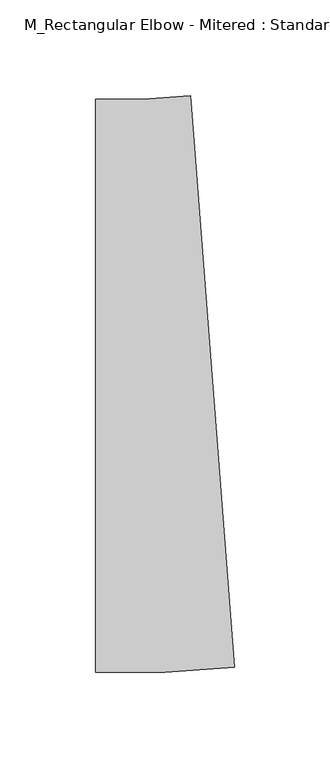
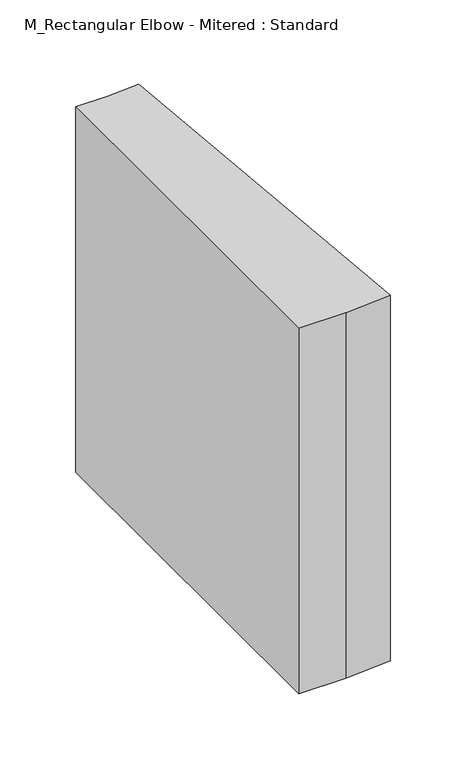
"""IFC4 building model written with IfcOpenShell, lengths in millimetres: duct fitting geometry, M_Rectangular Elbow - Mitered : Standard."""

from ifc_helpers import new_model, si_unit, frame, origin, place, context, project, spatial, polyline, outline, extrude, source, transform, mapped, element, save


def m_rectangular_elbow_mitered_standard_8b9f0058(model_context):
    return source(origin(), model_context, "Body", "SweptSolid", [
        extrude(outline(polyline([(-30.73359, -150.0), (-30.73359, 150.0), (-5.73359, 150.0), (19.1934631, 151.9084083), (42.0943633, -147.2162292), (5.73359, -150.0), (-30.73359, -150.0)])), frame((0.0, 0.0, -150.0), z_axis=(0.0, 0.0, 1.0), x_axis=(1.0, 0.0, 0.0)), (0.0, 0.0, 1.0), 300.0),
        extrude(outline(polyline([(-30.73359, -150.0), (-30.73359, 150.0), (-5.73359, 150.0), (19.1934631, 151.9084083), (42.0943633, -147.2162292), (5.73359, -150.0), (-30.73359, -150.0)])), frame((0.0, 0.0, -150.0), z_axis=(0.0, 0.0, 1.0), x_axis=(1.0, 0.0, 0.0)), (0.0, 0.0, 1.0), 300.0),
        extrude(outline(polyline([(-30.73359, -150.0), (-30.73359, 150.0), (-5.73359, 150.0), (19.1934631, 151.9084083), (42.0943633, -147.2162292), (5.73359, -150.0), (-30.73359, -150.0)])), frame((0.0, 0.0, -150.0), z_axis=(0.0, 0.0, 1.0), x_axis=(1.0, 0.0, 0.0)), (0.0, 0.0, 1.0), 300.0),
    ])


if __name__ == "__main__":
    model = new_model("IFC4")
    model_context = context("Model", 3, world=origin())
    ifc_project = project(units=[si_unit("LENGTHUNIT", "METRE", prefix="MILLI")], contexts=[model_context])
    site = spatial("IfcSite", under=ifc_project)
    building = spatial("IfcBuilding", under=site)
    placement = place(None, origin())
    m_rectangular_elbow_mitered_standard_shape = m_rectangular_elbow_mitered_standard_8b9f0058(model_context)
    element("IfcDuctFitting", 1, ObjectType="M_Rectangular Elbow - Mitered : Standard", at=placement, inside=building, context=model_context, shape_type="MappedRepresentation", body=[
        mapped(m_rectangular_elbow_mitered_standard_shape, transform((0.0, 0.0, 0.0), x_axis=(1.0, 0.0, 0.0), y_axis=(0.0, 1.0, 0.0), z_axis=(0.0, 0.0, 1.0))),
    ])
    save(model, "model.ifc")
